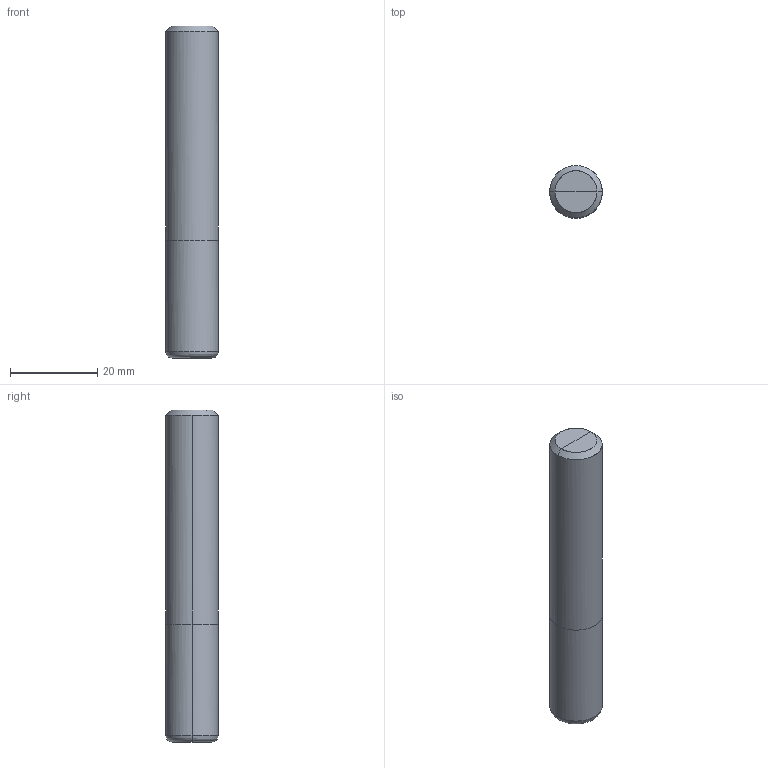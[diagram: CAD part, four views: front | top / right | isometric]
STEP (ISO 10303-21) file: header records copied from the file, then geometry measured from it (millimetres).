
FILE_DESCRIPTION(/* description */ (''),/* implementation_level */ '2;1');
FILE_NAME(/*name*/ '2041-12-1.5R',/*time_stamp*/'2021-3-25T15:21:42',/*author*/ ('ISBE GmbH'),/*organization*/ ('ISBE GmbH'),/*preprocessor_version*/ 'STEP IO v1.0',/*originating_system*/ '',/*authorisation*/ '');
FILE_SCHEMA (('AUTOMOTIVE_DESIGN'));
Length unit declared in the file: millimetre
Products named in the file (1): Document
Bounding box: 12 x 12 x 76 mm (x, y, z)
Surface area: 3268.5 mm2 (no closed solid volume)
Topology: 0 solids, 16 shells, 16 faces, 66 edges, 60 vertices
Faces by surface type: bspline 16
Entity records: 977 total; most frequent: CARTESIAN_POINT 682, VERTEX_POINT 56, EDGE_CURVE 56, ORIENTED_EDGE 56, DIRECTION 16, EDGE_LOOP 16, FACE_OUTER_BOUND 16, ADVANCED_FACE 16
